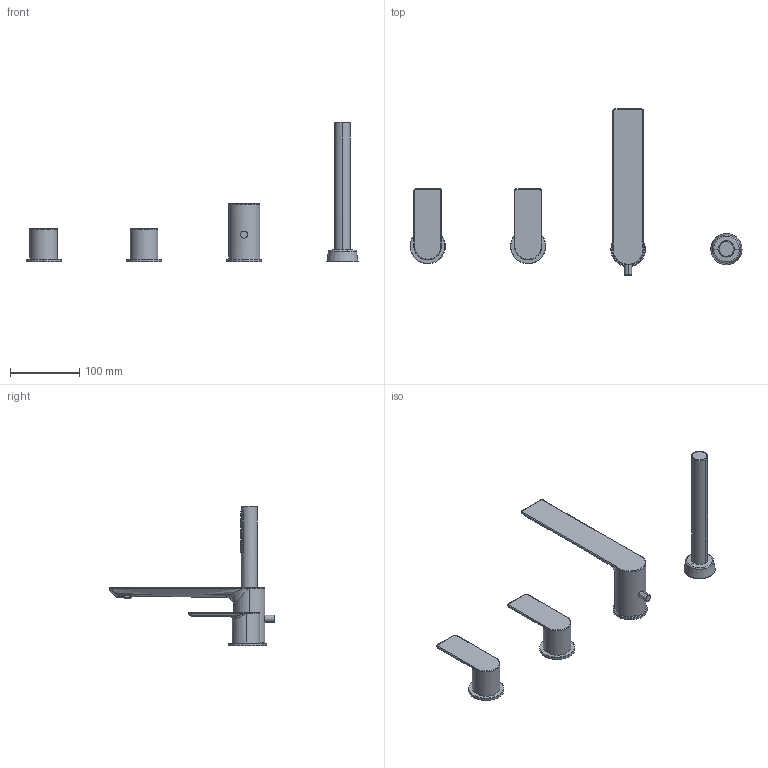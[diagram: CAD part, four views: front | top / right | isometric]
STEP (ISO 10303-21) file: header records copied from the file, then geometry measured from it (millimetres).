
FILE_DESCRIPTION (( 'STEP AP214' ), '1' );
FILE_NAME ('80139410 x architetti.STEP', '2024-11-11T15:22:05', ( '' ), ( '' ), 'SwSTEP 2.0', 'SolidWorks 2020', '' );
FILE_SCHEMA (( 'AUTOMOTIVE_DESIGN' ));
Length unit declared in the file: millimetre
Products named in the file (3): 80139410; F0004799       ; 80139410 x architetti
Assembly tree (2 placements, depth 2):
  80139410 x architetti
    80139410
    F0004799       
Bounding box: 479.41 x 239.64 x 201.56 mm (x, y, z)
Volume: 461192 mm3; surface area: 93339.8 mm2
Topology: 5 solids, 6 shells, 1138 faces, 3182 edges, 2095 vertices
Faces by surface type: plane 890, cylinder 182, bspline 42, torus 10, cone 10, sphere 4
Entity records: 52873 total; most frequent: CARTESIAN_POINT 15112, ORIENTED_EDGE 6340, DIRECTION 4469, EDGE_CURVE 3170, VERTEX_POINT 2095, VECTOR 1903, LINE 1903, EDGE_LOOP 1613
